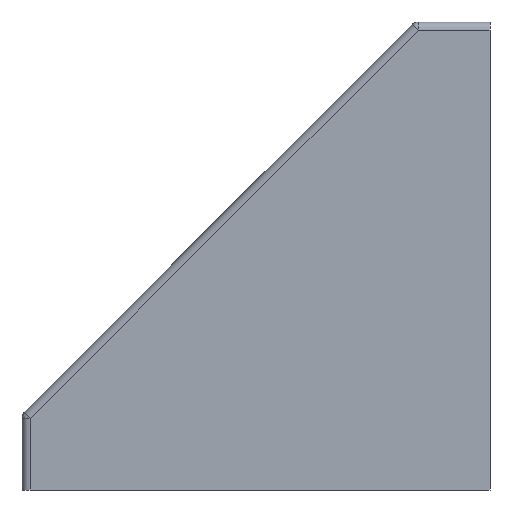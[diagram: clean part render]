
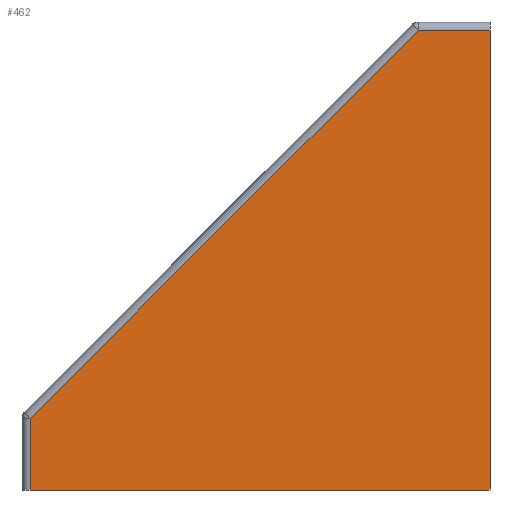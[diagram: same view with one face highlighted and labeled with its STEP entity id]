
A CAD part, front view. The second image highlights one B-rep face of the part: STEP entity #462.
In plain terms, the highlighted planar face has unit normal (0, -1, 0).
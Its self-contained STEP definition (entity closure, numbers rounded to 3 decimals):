
#31=PLANE($,#519);
#53=LINE($,#756,#89);
#55=LINE($,#759,#91);
#56=LINE($,#762,#92);
#60=LINE($,#775,#96);
#67=LINE($,#797,#103);
#89=VECTOR($,#613,4.293);
#91=VECTOR($,#617,32.82);
#92=VECTOR($,#620,4.293);
#96=VECTOR($,#634,27.5);
#103=VECTOR($,#663,27.5);
#154=FACE_OUTER_BOUND($,#186,.T.);
#186=EDGE_LOOP($,(#430,#431,#432,#433,#434));
#203=VERTEX_POINT($,#671);
#228=VERTEX_POINT($,#734);
#233=VERTEX_POINT($,#754);
#234=VERTEX_POINT($,#761);
#238=VERTEX_POINT($,#774);
#287=EDGE_CURVE($,#233,#228,#53,.T.);
#289=EDGE_CURVE($,#228,#203,#55,.T.);
#290=EDGE_CURVE($,#203,#234,#56,.T.);
#296=EDGE_CURVE($,#234,#238,#60,.T.);
#306=EDGE_CURVE($,#238,#233,#67,.T.);
#430=ORIENTED_EDGE($,*,*,#287,.F.);
#431=ORIENTED_EDGE($,*,*,#306,.F.);
#432=ORIENTED_EDGE($,*,*,#296,.F.);
#433=ORIENTED_EDGE($,*,*,#290,.F.);
#434=ORIENTED_EDGE($,*,*,#289,.F.);
#462=ADVANCED_FACE($,(#154),#31,.T.);
#519=AXIS2_PLACEMENT_3D($,#798,#664,#665);
#613=DIRECTION($,(0.,0.,1.));
#617=DIRECTION($,(0.707,0.,0.707));
#620=DIRECTION($,(1.,0.,0.));
#634=DIRECTION($,(0.,0.,-1.));
#663=DIRECTION($,(-1.,0.,0.));
#664=DIRECTION('center_axis',(0.,-1.,0.));
#665=DIRECTION('ref_axis',(0.,0.,-1.));
#671=CARTESIAN_POINT('',(-4.293,0.,27.5));
#734=CARTESIAN_POINT('',(-27.5,0.,4.293));
#754=CARTESIAN_POINT('',(-27.5,0.,0.));
#756=CARTESIAN_POINT($,(-27.5,0.,5.437));
#759=CARTESIAN_POINT($,(-21.771,0.,10.021));
#761=CARTESIAN_POINT('',(0.,0.,27.5));
#762=CARTESIAN_POINT($,(-7.687,0.,27.5));
#774=CARTESIAN_POINT('',(0.,0.,0.));
#775=CARTESIAN_POINT($,(0.,0.,28.));
#797=CARTESIAN_POINT($,(0.,0.,0.));
#798=CARTESIAN_POINT('Origin',(-10.874,0.,10.874));
